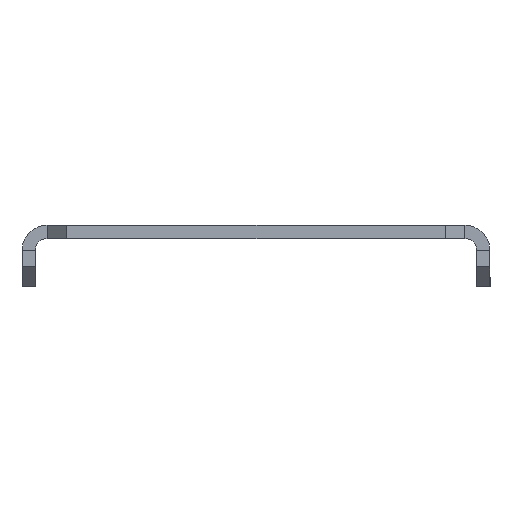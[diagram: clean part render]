
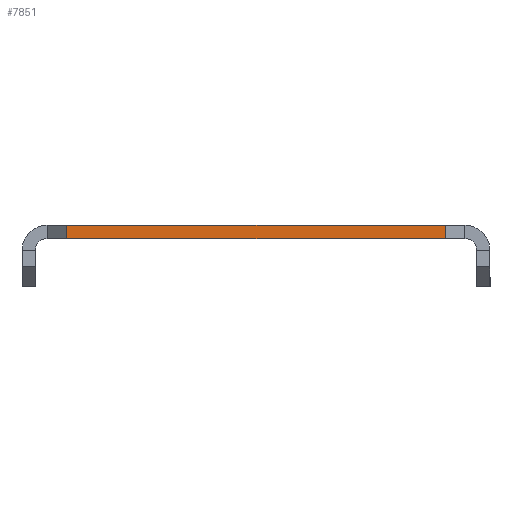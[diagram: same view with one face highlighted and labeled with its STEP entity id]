
A CAD part, left-side view. The second image highlights one B-rep face of the part: STEP entity #7851.
In plain terms, the highlighted planar face has unit normal (-1, 0, 0).
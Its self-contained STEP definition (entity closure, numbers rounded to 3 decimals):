
#777 = EDGE_CURVE ( 'NONE', #18389, #25702, #23217, .T. ) ;
#3207 = CARTESIAN_POINT ( 'NONE',  ( -487.5, -28.655, 0. ) ) ;
#5014 = EDGE_CURVE ( 'NONE', #11469, #25702, #22008, .T. ) ;
#5861 = EDGE_LOOP ( 'NONE', ( #17468, #14525, #19510, #18421 ) ) ;
#7851 = ADVANCED_FACE ( 'NONE', ( #20154 ), #15331, .F. ) ;
#8478 = DIRECTION ( 'NONE',  ( 0., 0., -1. ) ) ;
#10181 = CARTESIAN_POINT ( 'NONE',  ( -487.5, -28.655, 2. ) ) ;
#10411 = CARTESIAN_POINT ( 'NONE',  ( -487.5, 28.655, 0. ) ) ;
#10601 = VECTOR ( 'NONE', #27494, 1000. ) ;
#11469 = VERTEX_POINT ( 'NONE', #16301 ) ;
#12139 = CARTESIAN_POINT ( 'NONE',  ( -487.5, -28.655, 0. ) ) ;
#13469 = LINE ( 'NONE', #12139, #25828 ) ;
#14525 = ORIENTED_EDGE ( 'NONE', *, *, #23812, .T. ) ;
#15184 = LINE ( 'NONE', #25051, #16205 ) ;
#15331 = PLANE ( 'NONE',  #27003 ) ;
#15508 = VERTEX_POINT ( 'NONE', #10181 ) ;
#16205 = VECTOR ( 'NONE', #26913, 1000. ) ;
#16301 = CARTESIAN_POINT ( 'NONE',  ( -487.5, 28.655, 2. ) ) ;
#16812 = DIRECTION ( 'NONE',  ( 0., 0., 1. ) ) ;
#17468 = ORIENTED_EDGE ( 'NONE', *, *, #777, .F. ) ;
#18389 = VERTEX_POINT ( 'NONE', #3207 ) ;
#18421 = ORIENTED_EDGE ( 'NONE', *, *, #5014, .T. ) ;
#19510 = ORIENTED_EDGE ( 'NONE', *, *, #20845, .T. ) ;
#19535 = DIRECTION ( 'NONE',  ( 1., 0., 0. ) ) ;
#20154 = FACE_OUTER_BOUND ( 'NONE', #5861, .T. ) ;
#20763 = CARTESIAN_POINT ( 'NONE',  ( -487.5, 31.655, 0. ) ) ;
#20845 = EDGE_CURVE ( 'NONE', #15508, #11469, #15184, .T. ) ;
#21558 = DIRECTION ( 'NONE',  ( 0., 0., -1. ) ) ;
#21662 = VECTOR ( 'NONE', #8478, 1000. ) ;
#21921 = CARTESIAN_POINT ( 'NONE',  ( -487.5, 31.655, 0. ) ) ;
#22008 = LINE ( 'NONE', #10411, #21662 ) ;
#22381 = CARTESIAN_POINT ( 'NONE',  ( -487.5, 28.655, 0. ) ) ;
#23217 = LINE ( 'NONE', #20763, #10601 ) ;
#23812 = EDGE_CURVE ( 'NONE', #18389, #15508, #13469, .T. ) ;
#25051 = CARTESIAN_POINT ( 'NONE',  ( -487.5, 31.655, 2. ) ) ;
#25702 = VERTEX_POINT ( 'NONE', #22381 ) ;
#25828 = VECTOR ( 'NONE', #16812, 1000. ) ;
#26913 = DIRECTION ( 'NONE',  ( 0., 1., 0. ) ) ;
#27003 = AXIS2_PLACEMENT_3D ( 'NONE', #21921, #19535, #21558 ) ;
#27494 = DIRECTION ( 'NONE',  ( 0., 1., 0. ) ) ;
